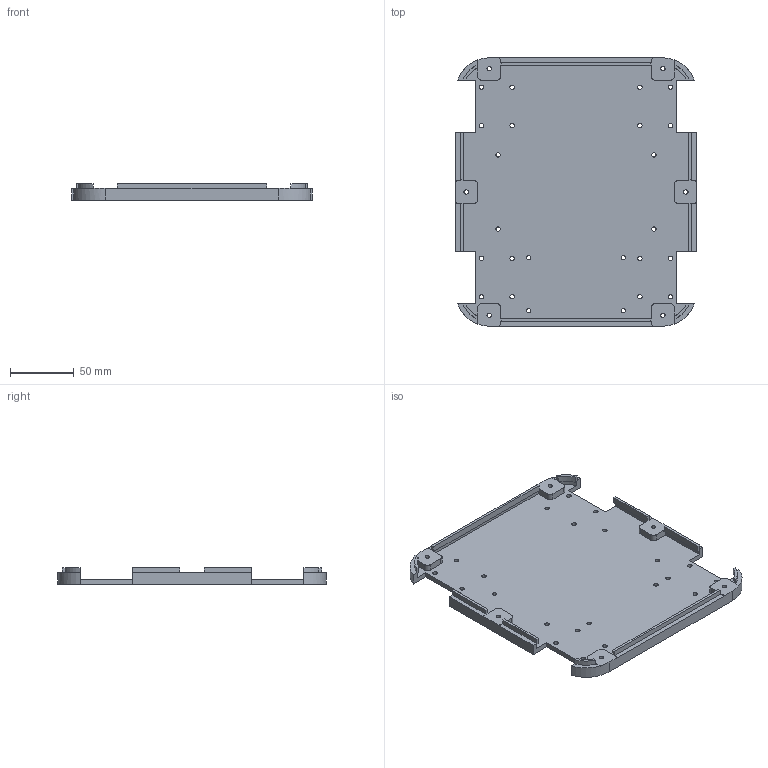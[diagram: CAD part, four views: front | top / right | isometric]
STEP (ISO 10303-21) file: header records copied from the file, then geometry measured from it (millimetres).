
FILE_DESCRIPTION(('FreeCAD Model'),'2;1');
FILE_NAME('Open CASCADE Shape Model','2026-10-18T22:43:10',('FreeCAD'),( 'FreeCAD'),'Open CASCADE STEP processor 7.8','FreeCAD','Unknown');
FILE_SCHEMA(('AUTOMOTIVE_DESIGN { 1 0 10303 214 1 1 1 1 }'));
Length unit declared in the file: millimetre
Products named in the file (1): Open CASCADE STEP translator 7.8 1
Bounding box: 188 x 210 x 13 mm (x, y, z)
Volume: 167061.2 mm3; surface area: 89350.4 mm2
Topology: 1 solids, 1 shells, 196 faces, 596 edges, 408 vertices
Faces by surface type: plane 120, cylinder 76
Full cylindrical faces by diameter (mm): 3.4 x14, 3.5 x16, 6.4 x6
Entity records: 6902 total; most frequent: CARTESIAN_POINT 1201, ORIENTED_EDGE 1192, DIRECTION 1186, EDGE_CURVE 596, VERTEX_POINT 408, LINE 400, VECTOR 400, AXIS2_PLACEMENT_3D 393
